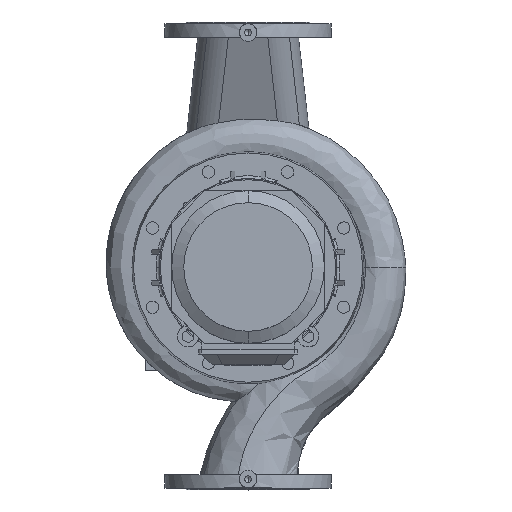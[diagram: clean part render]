
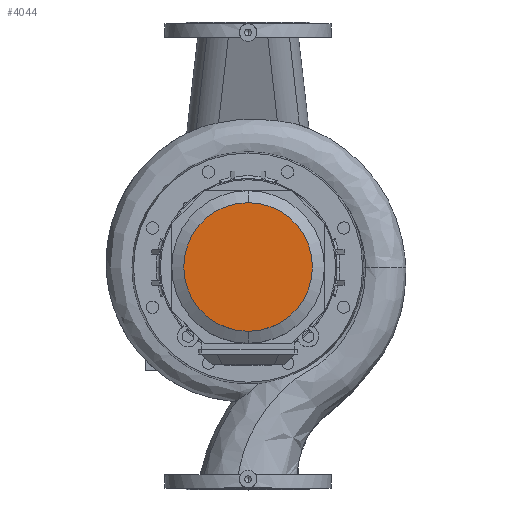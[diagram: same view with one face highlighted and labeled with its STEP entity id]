
A CAD part, top view. The second image highlights one B-rep face of the part: STEP entity #4044.
In plain terms, the highlighted planar face has unit normal (0, 0, 1) as drawn and (0, 1, 0) by its records, which use the part's own axes.
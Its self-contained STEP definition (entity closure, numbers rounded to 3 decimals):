
#4044=ADVANCED_FACE('F159',(#8053),#8054,.T.);
#8053=FACE_OUTER_BOUND('',#12661,.T.);
#8054=PLANE('',#12662);
#12661=EDGE_LOOP('',(#14730,#14731));
#12662=AXIS2_PLACEMENT_3D('',#14732,#14733,#14734);
#14730=ORIENTED_EDGE('',*,*,#17929,.T.);
#14731=ORIENTED_EDGE('',*,*,#17855,.T.);
#14732=CARTESIAN_POINT('',(-121.0,166.0,-121.0));
#14733=DIRECTION('',(0.0,1.0,0.0));
#14734=DIRECTION('',(1.0,0.0,-0.0));
#17855=EDGE_CURVE('E447',#23023,#23021,#23024,.T.);
#17929=EDGE_CURVE('E447',#23021,#23023,#23145,.T.);
#23021=VERTEX_POINT('',#25384);
#23023=VERTEX_POINT('',#25387);
#23024=CIRCLE('',#25388,110.0);
#23145=CIRCLE('',#25568,110.0);
#25384=CARTESIAN_POINT('',(0.,166.0,-110.0));
#25387=CARTESIAN_POINT('',(0.,166.0,110.0));
#25388=AXIS2_PLACEMENT_3D('',#26649,#26650,#26651);
#25568=AXIS2_PLACEMENT_3D('',#26753,#26754,#26755);
#26649=CARTESIAN_POINT('',(0.0,166.0,0.0));
#26650=DIRECTION('',(0.0,1.0,0.0));
#26651=DIRECTION('',(0.0,0.0,1.0));
#26753=CARTESIAN_POINT('',(0.0,166.0,0.0));
#26754=DIRECTION('',(0.0,1.0,0.0));
#26755=DIRECTION('',(0.0,0.0,1.0));
